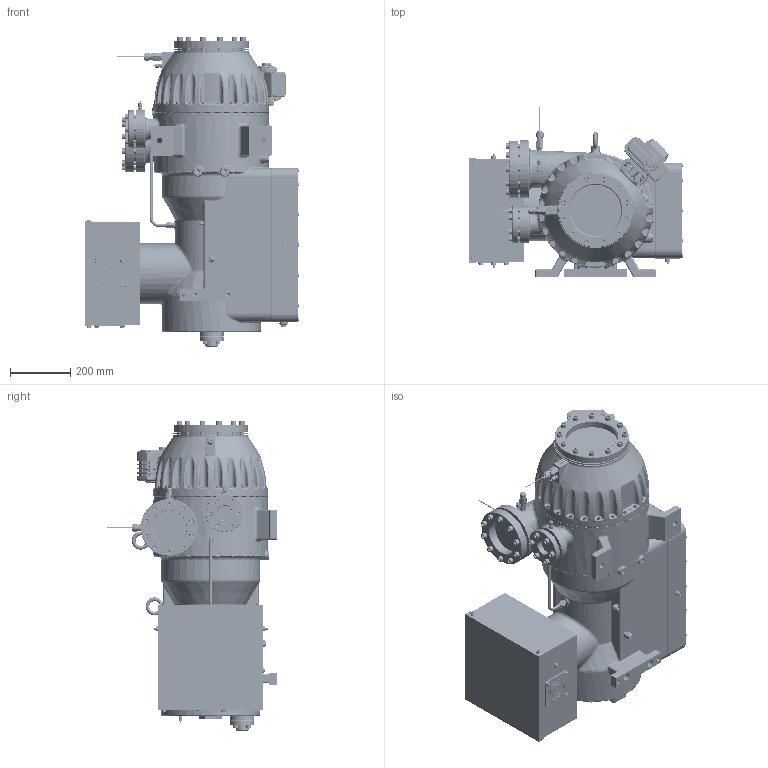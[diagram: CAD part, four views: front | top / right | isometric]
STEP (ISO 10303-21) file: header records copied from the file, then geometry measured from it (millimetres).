
FILE_DESCRIPTION(/* description */ (''),/* implementation_level */ '2;1');
FILE_NAME(/* name */ 'S:\Drawings - Mcs Hardware\3D & 2D Drawings\Hanbell\RTM - 3D Dimensional Drawings\RTM-030_20250219.stp',/* time_stamp */ '2026-06-16T11:29:35-04:00',/* author */ ('imitchell'),/* organization */ ('unknown'),/* preprocessor_version */ 'ST-DEVELOPER v19',/* originating_system */ 'Autodesk Inventor 2023',/* authorisation */ '');
FILE_SCHEMA (('AUTOMOTIVE_DESIGN { 1 0 10303 214 3 1 1 }'));
Products named in the file (1): RTM-030_20250219
Bounding box: 713.1 x 563.82 x 1029 mm (x, y, z)
Volume: 38931388.5 mm3; surface area: 6476816.2 mm2
Topology: 85 solids, 159 shells, 18968 faces, 50246 edges, 32680 vertices
Faces by surface type: plane 8402, bspline 5694, cylinder 3356, cone 857, torus 574, sphere 85
Full cylindrical faces by diameter (mm): 2 x4, 2.5 x2, 3 x9, 3.2 x1, 3.3 x38, 3.5 x5, 3.6 x1, 4 x6, 4.2 x1, 4.5 x21, 4.8 x14, 4.801 x2, 5 x112, 5.3 x2, 5.4 x1, 6 x89, 6.3 x2, 6.5 x7, 6.6 x4, 6.8 x100, 6.95 x2, 7 x48, 7.963 x2, 8 x145, 8.433 x1, 8.5 x8, 8.738 x1, 9 x100, 9.5 x5, 10 x72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
Entity records: 1070111 total; most frequent: CARTESIAN_POINT 635510, ORIENTED_EDGE 99836, DIRECTION 73232, EDGE_CURVE 49918, VERTEX_POINT 32678, LINE 26796, VECTOR 26796, AXIS2_PLACEMENT_3D 23218
